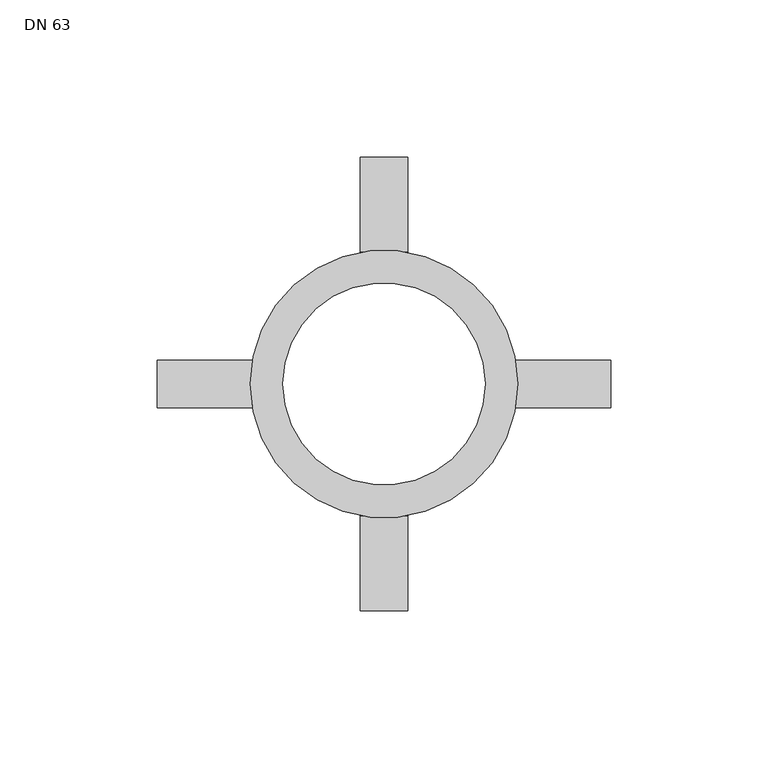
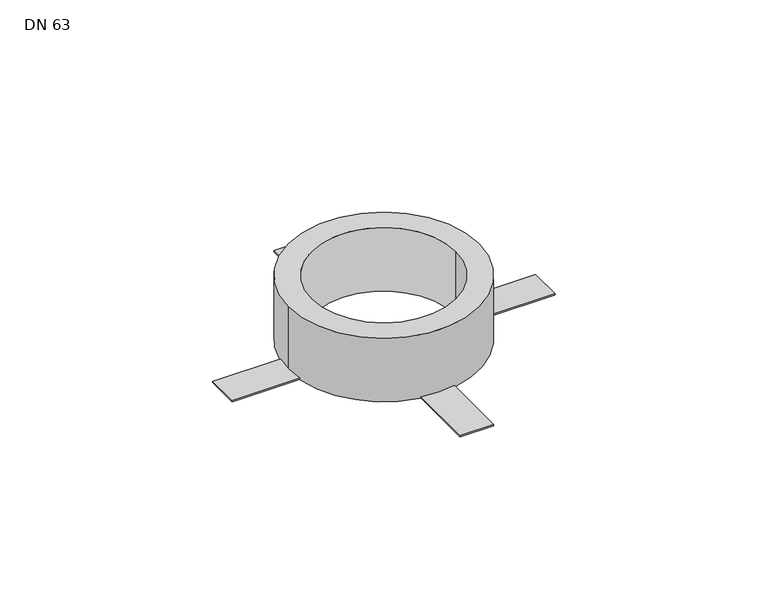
"""IFC4 building model written with IfcOpenShell, lengths in millimetres: proxy geometry, Wavin Brandmanschette für Decken : DN 63."""

from ifc_helpers import new_model, si_unit, point, origin, origin_with_axes, origin_2d, place, context, project, spatial, polyline, circle_curve, trimmed, segment, composite_curve, outline, extrude, source, transform, mapped, element, save


def dn_63_0941c4dd(model_context):
    return source(origin(), model_context, "Body", "SweptSolid", [
        extrude(outline(composite_curve([segment(polyline([(72.0, 7.5), (72.0, -7.5), (41.8330013, -7.5)]), True, "CONTINUOUS"), segment(trimmed(circle_curve(origin_2d(), 42.5), [point((41.8330013, -7.5))], [point((41.8330013, 7.5))], True, "CARTESIAN"), True, "CONTINUOUS"), segment(polyline([(41.8330013, 7.5), (72.0, 7.5)]), True, "CONTINUOUS")], self_intersect=False)), origin_with_axes(), (0.0, 0.0, 1.0), 0.6),
        extrude(outline(composite_curve([segment(polyline([(-7.5, 72.0), (7.5, 72.0), (7.5, 41.8330013)]), True, "CONTINUOUS"), segment(trimmed(circle_curve(origin_2d(), 42.5), [point((7.5, 41.8330013))], [point((-7.5, 41.8330013))], True, "CARTESIAN"), True, "CONTINUOUS"), segment(polyline([(-7.5, 41.8330013), (-7.5, 72.0)]), True, "CONTINUOUS")], self_intersect=False)), origin_with_axes(), (0.0, 0.0, 1.0), 0.6),
        extrude(outline(composite_curve([segment(polyline([(-72.0, -7.5), (-72.0, 7.5), (-41.8330013, 7.5)]), True, "CONTINUOUS"), segment(trimmed(circle_curve(origin_2d(), 42.5), [point((-41.8330013, 7.5))], [point((-41.8330013, -7.5))], True, "CARTESIAN"), True, "CONTINUOUS"), segment(polyline([(-41.8330013, -7.5), (-72.0, -7.5)]), True, "CONTINUOUS")], self_intersect=False)), origin_with_axes(), (0.0, 0.0, 1.0), 0.6),
        extrude(outline(composite_curve([segment(polyline([(7.5, -72.0), (-7.5, -72.0), (-7.5, -41.8330013)]), True, "CONTINUOUS"), segment(trimmed(circle_curve(origin_2d(), 42.5), [point((-7.5, -41.8330013))], [point((7.5, -41.8330013))], True, "CARTESIAN"), True, "CONTINUOUS"), segment(polyline([(7.5, -41.8330013), (7.5, -72.0)]), True, "CONTINUOUS")], self_intersect=False)), origin_with_axes(), (0.0, 0.0, 1.0), 0.6),
        extrude(outline(composite_curve([segment(trimmed(circle_curve(origin_2d(), 42.5), [point((-42.5, 0.0))], [point((42.5, 0.0))], False, "CARTESIAN"), True, "CONTINUOUS"), segment(trimmed(circle_curve(origin_2d(), 42.5), [point((42.5, 0.0))], [point((-42.5, 0.0))], False, "CARTESIAN"), True, "CONTINUOUS")], self_intersect=False), holes=[composite_curve([segment(trimmed(circle_curve(origin_2d(), 32.1), [point((-32.1, 0.0))], [point((32.1, 0.0))], True, "CARTESIAN"), True, "CONTINUOUS"), segment(trimmed(circle_curve(origin_2d(), 32.1), [point((32.1, 0.0))], [point((-32.1, 0.0))], True, "CARTESIAN"), True, "CONTINUOUS")], self_intersect=False)]), origin_with_axes(), (0.0, 0.0, 1.0), 30.0),
    ])


if __name__ == "__main__":
    model = new_model("IFC4")
    model_context = context("Model", 3, world=origin())
    ifc_project = project(units=[si_unit("LENGTHUNIT", "METRE", prefix="MILLI")], contexts=[model_context])
    site = spatial("IfcSite", under=ifc_project)
    building = spatial("IfcBuilding", under=site)
    placement = place(None, origin())
    dn_63_shape = dn_63_0941c4dd(model_context)
    element("IfcBuildingElementProxy", 1, Name="Wavin Brandmanschette für Decken : DN 63", ObjectType="Wavin Brandmanschette für Decken : DN 63", at=placement, inside=building, context=model_context, shape_type="MappedRepresentation", body=[
        mapped(dn_63_shape, transform((0.0, 0.0, 0.0), x_axis=(1.0, 0.0, 0.0), y_axis=(0.0, 1.0, 0.0), z_axis=(0.0, 0.0, 1.0))),
    ])
    save(model, "model.ifc")
